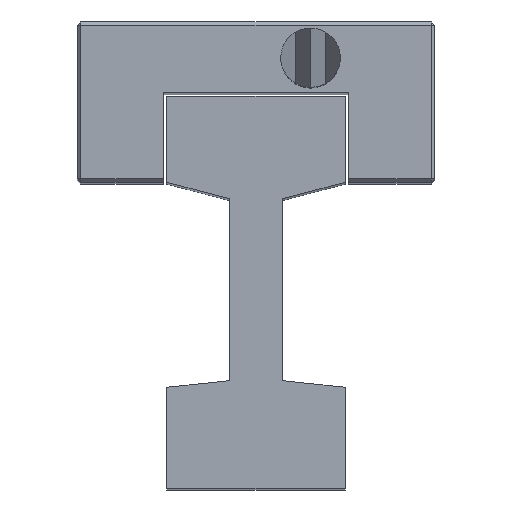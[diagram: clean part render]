
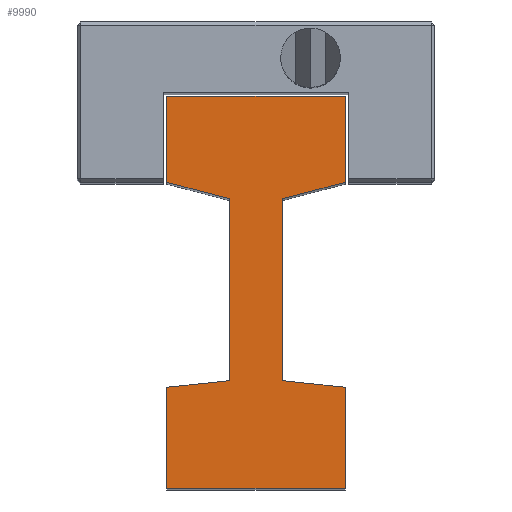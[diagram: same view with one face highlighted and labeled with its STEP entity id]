
A CAD part, top view. The second image highlights one B-rep face of the part: STEP entity #9990.
In plain terms, the highlighted planar face has unit normal (0, 0, 1).
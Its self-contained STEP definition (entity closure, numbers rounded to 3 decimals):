
#29 = ORIENTED_EDGE ( 'NONE', *, *, #18378, .T. ) ;
#44 = VERTEX_POINT ( 'NONE', #32809 ) ;
#45 = VECTOR ( 'NONE', #7065, 1000. ) ;
#158 = VECTOR ( 'NONE', #591, 1000. ) ;
#310 = LINE ( 'NONE', #5342, #21361 ) ;
#347 = ORIENTED_EDGE ( 'NONE', *, *, #17537, .T. ) ;
#591 = DIRECTION ( 'NONE',  ( 0., 1., 0. ) ) ;
#771 = LINE ( 'NONE', #35538, #29144 ) ;
#871 = AXIS2_PLACEMENT_3D ( 'NONE', #3547, #9049, #28279 ) ;
#930 = LINE ( 'NONE', #23514, #45 ) ;
#994 = CARTESIAN_POINT ( 'NONE',  ( 5.4, -23.7, 0. ) ) ;
#2162 = CARTESIAN_POINT ( 'NONE',  ( 5.4, -17.6, 0. ) ) ;
#2472 = CARTESIAN_POINT ( 'NONE',  ( 5.4, -5.2, 0. ) ) ;
#2600 = VERTEX_POINT ( 'NONE', #18726 ) ;
#2679 = DIRECTION ( 'NONE',  ( 1., 0., 0. ) ) ;
#2984 = CARTESIAN_POINT ( 'NONE',  ( 5.4, -5.2, 0. ) ) ;
#3042 = EDGE_CURVE ( 'NONE', #5692, #2600, #310, .T. ) ;
#3046 = ORIENTED_EDGE ( 'NONE', *, *, #16639, .T. ) ;
#3127 = CARTESIAN_POINT ( 'NONE',  ( 1.6, -17.2, 0. ) ) ;
#3547 = CARTESIAN_POINT ( 'NONE',  ( -5.4, -23.7, 0. ) ) ;
#3681 = EDGE_CURVE ( 'NONE', #6506, #7010, #11022, .T. ) ;
#4190 = CARTESIAN_POINT ( 'NONE',  ( -1.6, -17.2, 0. ) ) ;
#4498 = CARTESIAN_POINT ( 'NONE',  ( 5.4, 0., 0. ) ) ;
#5342 = CARTESIAN_POINT ( 'NONE',  ( 1.6, -6.2, 0. ) ) ;
#5489 = DIRECTION ( 'NONE',  ( 0.967, -0.254, 0. ) ) ;
#5692 = VERTEX_POINT ( 'NONE', #3127 ) ;
#5711 = EDGE_LOOP ( 'NONE', ( #23157, #33660, #3046, #29805, #347, #29, #10222, #9548, #7501, #12537, #8143, #24781 ) ) ;
#5772 = DIRECTION ( 'NONE',  ( 0.967, 0.254, 0. ) ) ;
#5946 = VERTEX_POINT ( 'NONE', #2472 ) ;
#6290 = PLANE ( 'NONE',  #871 ) ;
#6506 = VERTEX_POINT ( 'NONE', #20445 ) ;
#7010 = VERTEX_POINT ( 'NONE', #10549 ) ;
#7065 = DIRECTION ( 'NONE',  ( 0., -1., 0. ) ) ;
#7081 = LINE ( 'NONE', #24697, #28171 ) ;
#7128 = VECTOR ( 'NONE', #27265, 1000. ) ;
#7501 = ORIENTED_EDGE ( 'NONE', *, *, #3042, .T. ) ;
#7762 = VERTEX_POINT ( 'NONE', #30706 ) ;
#8030 = CARTESIAN_POINT ( 'NONE',  ( 5.4, -17.6, 0. ) ) ;
#8064 = DIRECTION ( 'NONE',  ( 0., 1., 0. ) ) ;
#8143 = ORIENTED_EDGE ( 'NONE', *, *, #23076, .T. ) ;
#9049 = DIRECTION ( 'NONE',  ( 0., 0., 1. ) ) ;
#9548 = ORIENTED_EDGE ( 'NONE', *, *, #22933, .T. ) ;
#9990 = ADVANCED_FACE ( 'NONE', ( #24172 ), #6290, .T. ) ;
#10071 = EDGE_CURVE ( 'NONE', #44, #14517, #29775, .T. ) ;
#10222 = ORIENTED_EDGE ( 'NONE', *, *, #20112, .T. ) ;
#10549 = CARTESIAN_POINT ( 'NONE',  ( -5.4, -17.6, 0. ) ) ;
#11022 = LINE ( 'NONE', #4190, #11895 ) ;
#11143 = CARTESIAN_POINT ( 'NONE',  ( 1.6, -17.2, 0. ) ) ;
#11630 = CARTESIAN_POINT ( 'NONE',  ( 5.4, 0., 0. ) ) ;
#11895 = VECTOR ( 'NONE', #23390, 1000. ) ;
#12537 = ORIENTED_EDGE ( 'NONE', *, *, #21645, .T. ) ;
#13655 = VECTOR ( 'NONE', #14657, 1000. ) ;
#13663 = CARTESIAN_POINT ( 'NONE',  ( -5.4, 0., 0. ) ) ;
#14517 = VERTEX_POINT ( 'NONE', #13663 ) ;
#14657 = DIRECTION ( 'NONE',  ( 0., -1., 0. ) ) ;
#14757 = LINE ( 'NONE', #11630, #158 ) ;
#15152 = VERTEX_POINT ( 'NONE', #27676 ) ;
#15326 = VERTEX_POINT ( 'NONE', #31980 ) ;
#15500 = DIRECTION ( 'NONE',  ( -1., 0., 0. ) ) ;
#16639 = EDGE_CURVE ( 'NONE', #7762, #6506, #34747, .T. ) ;
#17364 = LINE ( 'NONE', #11143, #31125 ) ;
#17446 = CARTESIAN_POINT ( 'NONE',  ( -5.4, -17.6, 0. ) ) ;
#17537 = EDGE_CURVE ( 'NONE', #7010, #15152, #29178, .T. ) ;
#17563 = VERTEX_POINT ( 'NONE', #994 ) ;
#17866 = CARTESIAN_POINT ( 'NONE',  ( -1.6, -6.2, 0. ) ) ;
#18378 = EDGE_CURVE ( 'NONE', #15152, #17563, #771, .T. ) ;
#18726 = CARTESIAN_POINT ( 'NONE',  ( 1.6, -6.2, 0. ) ) ;
#20112 = EDGE_CURVE ( 'NONE', #17563, #34822, #27337, .T. ) ;
#20445 = CARTESIAN_POINT ( 'NONE',  ( -1.6, -17.2, 0. ) ) ;
#21023 = VECTOR ( 'NONE', #31671, 1000. ) ;
#21361 = VECTOR ( 'NONE', #8064, 1000. ) ;
#21645 = EDGE_CURVE ( 'NONE', #2600, #5946, #30735, .T. ) ;
#22451 = VECTOR ( 'NONE', #15500, 1000. ) ;
#22933 = EDGE_CURVE ( 'NONE', #34822, #5692, #17364, .T. ) ;
#23076 = EDGE_CURVE ( 'NONE', #5946, #44, #14757, .T. ) ;
#23157 = ORIENTED_EDGE ( 'NONE', *, *, #25804, .T. ) ;
#23390 = DIRECTION ( 'NONE',  ( -0.995, -0.105, 0. ) ) ;
#23514 = CARTESIAN_POINT ( 'NONE',  ( -5.4, 0., 0. ) ) ;
#24172 = FACE_OUTER_BOUND ( 'NONE', #5711, .T. ) ;
#24697 = CARTESIAN_POINT ( 'NONE',  ( -5.4, -5.2, 0. ) ) ;
#24781 = ORIENTED_EDGE ( 'NONE', *, *, #10071, .T. ) ;
#25804 = EDGE_CURVE ( 'NONE', #14517, #15326, #930, .T. ) ;
#27265 = DIRECTION ( 'NONE',  ( 0., 1., 0. ) ) ;
#27337 = LINE ( 'NONE', #8030, #7128 ) ;
#27603 = DIRECTION ( 'NONE',  ( -0.995, 0.105, 0. ) ) ;
#27676 = CARTESIAN_POINT ( 'NONE',  ( -5.4, -23.7, 0. ) ) ;
#28171 = VECTOR ( 'NONE', #5489, 1000. ) ;
#28279 = DIRECTION ( 'NONE',  ( 1., 0., 0. ) ) ;
#29144 = VECTOR ( 'NONE', #2679, 1000. ) ;
#29178 = LINE ( 'NONE', #17446, #13655 ) ;
#29579 = EDGE_CURVE ( 'NONE', #15326, #7762, #7081, .T. ) ;
#29775 = LINE ( 'NONE', #4498, #22451 ) ;
#29805 = ORIENTED_EDGE ( 'NONE', *, *, #3681, .T. ) ;
#29874 = VECTOR ( 'NONE', #5772, 1000. ) ;
#30706 = CARTESIAN_POINT ( 'NONE',  ( -1.6, -6.2, 0. ) ) ;
#30735 = LINE ( 'NONE', #2984, #29874 ) ;
#31125 = VECTOR ( 'NONE', #27603, 1000. ) ;
#31671 = DIRECTION ( 'NONE',  ( 0., -1., 0. ) ) ;
#31980 = CARTESIAN_POINT ( 'NONE',  ( -5.4, -5.2, 0. ) ) ;
#32809 = CARTESIAN_POINT ( 'NONE',  ( 5.4, 0., 0. ) ) ;
#33660 = ORIENTED_EDGE ( 'NONE', *, *, #29579, .T. ) ;
#34747 = LINE ( 'NONE', #17866, #21023 ) ;
#34822 = VERTEX_POINT ( 'NONE', #2162 ) ;
#35538 = CARTESIAN_POINT ( 'NONE',  ( -5.4, -23.7, 0. ) ) ;
